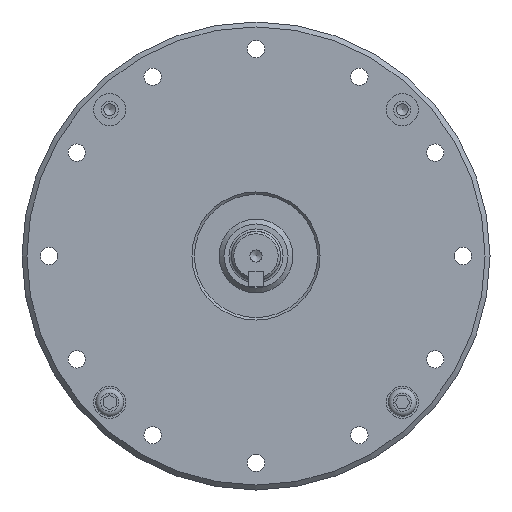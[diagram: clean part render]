
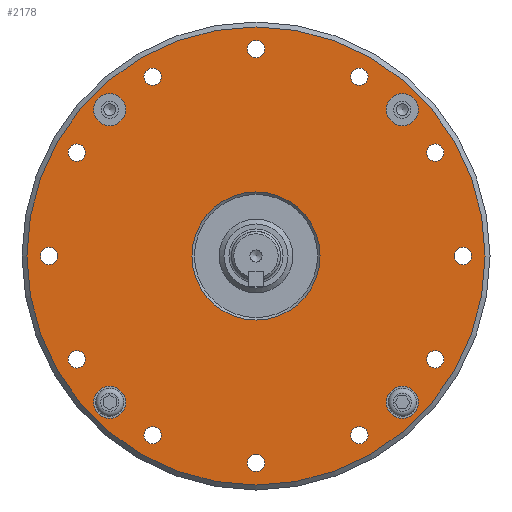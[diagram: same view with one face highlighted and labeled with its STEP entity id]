
A CAD part, front view. The second image highlights one B-rep face of the part: STEP entity #2178.
In plain terms, the highlighted planar face has unit normal (0, -1, 0).
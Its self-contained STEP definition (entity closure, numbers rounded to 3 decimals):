
#1407=PLANE('',#10837);
#1689=FACE_OUTER_BOUND('',#4518,.T.);
#2178=ADVANCED_FACE('',(#3362,#3363,#3364,#3365,#3366,#3367,#3368,#3369,
#3370,#3371,#3372,#3373,#3374,#3375,#3376,#3377,#3378,#1689),#1407,.T.);
#3362=FACE_BOUND('',#4501,.T.);
#3363=FACE_BOUND('',#4502,.T.);
#3364=FACE_BOUND('',#4503,.T.);
#3365=FACE_BOUND('',#4504,.T.);
#3366=FACE_BOUND('',#4505,.T.);
#3367=FACE_BOUND('',#4506,.T.);
#3368=FACE_BOUND('',#4507,.T.);
#3369=FACE_BOUND('',#4508,.T.);
#3370=FACE_BOUND('',#4509,.T.);
#3371=FACE_BOUND('',#4510,.T.);
#3372=FACE_BOUND('',#4511,.T.);
#3373=FACE_BOUND('',#4512,.T.);
#3374=FACE_BOUND('',#4513,.T.);
#3375=FACE_BOUND('',#4514,.T.);
#3376=FACE_BOUND('',#4515,.T.);
#3377=FACE_BOUND('',#4516,.T.);
#3378=FACE_BOUND('',#4517,.T.);
#4501=EDGE_LOOP('',(#5945));
#4502=EDGE_LOOP('',(#5946));
#4503=EDGE_LOOP('',(#5947));
#4504=EDGE_LOOP('',(#5948));
#4505=EDGE_LOOP('',(#5949));
#4506=EDGE_LOOP('',(#5950));
#4507=EDGE_LOOP('',(#5951));
#4508=EDGE_LOOP('',(#5952));
#4509=EDGE_LOOP('',(#5953));
#4510=EDGE_LOOP('',(#5954));
#4511=EDGE_LOOP('',(#5955));
#4512=EDGE_LOOP('',(#5956));
#4513=EDGE_LOOP('',(#5957));
#4514=EDGE_LOOP('',(#5958));
#4515=EDGE_LOOP('',(#5959));
#4516=EDGE_LOOP('',(#5960));
#4517=EDGE_LOOP('',(#5961));
#4518=EDGE_LOOP('',(#5962));
#5945=ORIENTED_EDGE('',*,*,#8802,.T.);
#5946=ORIENTED_EDGE('',*,*,#8763,.T.);
#5947=ORIENTED_EDGE('',*,*,#8767,.T.);
#5948=ORIENTED_EDGE('',*,*,#8771,.T.);
#5949=ORIENTED_EDGE('',*,*,#8803,.T.);
#5950=ORIENTED_EDGE('',*,*,#8772,.T.);
#5951=ORIENTED_EDGE('',*,*,#8774,.T.);
#5952=ORIENTED_EDGE('',*,*,#8776,.T.);
#5953=ORIENTED_EDGE('',*,*,#8778,.T.);
#5954=ORIENTED_EDGE('',*,*,#8780,.T.);
#5955=ORIENTED_EDGE('',*,*,#8782,.T.);
#5956=ORIENTED_EDGE('',*,*,#8784,.T.);
#5957=ORIENTED_EDGE('',*,*,#8786,.T.);
#5958=ORIENTED_EDGE('',*,*,#8788,.T.);
#5959=ORIENTED_EDGE('',*,*,#8790,.T.);
#5960=ORIENTED_EDGE('',*,*,#8792,.T.);
#5961=ORIENTED_EDGE('',*,*,#8804,.T.);
#5962=ORIENTED_EDGE('',*,*,#8805,.T.);
#7797=VERTEX_POINT('',#16364);
#7801=VERTEX_POINT('',#16375);
#7805=VERTEX_POINT('',#16386);
#7806=VERTEX_POINT('',#16389);
#7808=VERTEX_POINT('',#16394);
#7810=VERTEX_POINT('',#16399);
#7812=VERTEX_POINT('',#16404);
#7814=VERTEX_POINT('',#16409);
#7816=VERTEX_POINT('',#16414);
#7818=VERTEX_POINT('',#16419);
#7820=VERTEX_POINT('',#16424);
#7822=VERTEX_POINT('',#16429);
#7824=VERTEX_POINT('',#16434);
#7826=VERTEX_POINT('',#16439);
#7836=VERTEX_POINT('',#16463);
#7837=VERTEX_POINT('',#16465);
#7838=VERTEX_POINT('',#16467);
#7839=VERTEX_POINT('',#16469);
#8763=EDGE_CURVE('',#7797,#7797,#9787,.T.);
#8767=EDGE_CURVE('',#7801,#7801,#9791,.T.);
#8771=EDGE_CURVE('',#7805,#7805,#9795,.T.);
#8772=EDGE_CURVE('',#7806,#7806,#9796,.T.);
#8774=EDGE_CURVE('',#7808,#7808,#9798,.T.);
#8776=EDGE_CURVE('',#7810,#7810,#9800,.T.);
#8778=EDGE_CURVE('',#7812,#7812,#9802,.T.);
#8780=EDGE_CURVE('',#7814,#7814,#9804,.T.);
#8782=EDGE_CURVE('',#7816,#7816,#9806,.T.);
#8784=EDGE_CURVE('',#7818,#7818,#9808,.T.);
#8786=EDGE_CURVE('',#7820,#7820,#9810,.T.);
#8788=EDGE_CURVE('',#7822,#7822,#9812,.T.);
#8790=EDGE_CURVE('',#7824,#7824,#9814,.T.);
#8792=EDGE_CURVE('',#7826,#7826,#9816,.T.);
#8802=EDGE_CURVE('',#7836,#7836,#9826,.T.);
#8803=EDGE_CURVE('',#7837,#7837,#9827,.T.);
#8804=EDGE_CURVE('',#7838,#7838,#9828,.T.);
#8805=EDGE_CURVE('',#7839,#7839,#9829,.T.);
#9787=CIRCLE('',#10773,3.25);
#9791=CIRCLE('',#10780,3.25);
#9795=CIRCLE('',#10787,3.25);
#9796=CIRCLE('',#10789,1.75);
#9798=CIRCLE('',#10792,1.75);
#9800=CIRCLE('',#10795,1.75);
#9802=CIRCLE('',#10798,1.75);
#9804=CIRCLE('',#10801,1.75);
#9806=CIRCLE('',#10804,1.75);
#9808=CIRCLE('',#10807,1.75);
#9810=CIRCLE('',#10810,1.75);
#9812=CIRCLE('',#10813,1.75);
#9814=CIRCLE('',#10816,1.75);
#9816=CIRCLE('',#10819,1.75);
#9826=CIRCLE('',#10833,13.);
#9827=CIRCLE('',#10834,3.25);
#9828=CIRCLE('',#10835,1.75);
#9829=CIRCLE('',#10836,46.5);
#10773=AXIS2_PLACEMENT_3D('',#16363,#12674,#12675);
#10780=AXIS2_PLACEMENT_3D('',#16374,#12688,#12689);
#10787=AXIS2_PLACEMENT_3D('',#16385,#12702,#12703);
#10789=AXIS2_PLACEMENT_3D('',#16388,#12706,#12707);
#10792=AXIS2_PLACEMENT_3D('',#16393,#12712,#12713);
#10795=AXIS2_PLACEMENT_3D('',#16398,#12718,#12719);
#10798=AXIS2_PLACEMENT_3D('',#16403,#12724,#12725);
#10801=AXIS2_PLACEMENT_3D('',#16408,#12730,#12731);
#10804=AXIS2_PLACEMENT_3D('',#16413,#12736,#12737);
#10807=AXIS2_PLACEMENT_3D('',#16418,#12742,#12743);
#10810=AXIS2_PLACEMENT_3D('',#16423,#12748,#12749);
#10813=AXIS2_PLACEMENT_3D('',#16428,#12754,#12755);
#10816=AXIS2_PLACEMENT_3D('',#16433,#12760,#12761);
#10819=AXIS2_PLACEMENT_3D('',#16438,#12766,#12767);
#10833=AXIS2_PLACEMENT_3D('',#16462,#12794,#12795);
#10834=AXIS2_PLACEMENT_3D('',#16464,#12796,#12797);
#10835=AXIS2_PLACEMENT_3D('',#16466,#12798,#12799);
#10836=AXIS2_PLACEMENT_3D('',#16468,#12800,#12801);
#10837=AXIS2_PLACEMENT_3D('',#16470,#12802,#12803);
#12674=DIRECTION('',(0.,1.,0.));
#12675=DIRECTION('',(-1.,0.,0.));
#12688=DIRECTION('',(0.,1.,0.));
#12689=DIRECTION('',(0.,0.,-1.));
#12702=DIRECTION('',(0.,1.,0.));
#12703=DIRECTION('',(1.,0.,0.));
#12706=DIRECTION('',(0.,1.,0.));
#12707=DIRECTION('',(-0.5,0.,0.866));
#12712=DIRECTION('',(0.,1.,0.));
#12713=DIRECTION('',(-0.866,0.,0.5));
#12718=DIRECTION('',(0.,1.,0.));
#12719=DIRECTION('',(-1.,0.,0.));
#12724=DIRECTION('',(0.,1.,0.));
#12725=DIRECTION('',(-0.866,0.,-0.5));
#12730=DIRECTION('',(0.,1.,0.));
#12731=DIRECTION('',(-0.5,0.,-0.866));
#12736=DIRECTION('',(0.,1.,0.));
#12737=DIRECTION('',(0.,0.,-1.));
#12742=DIRECTION('',(0.,1.,0.));
#12743=DIRECTION('',(0.5,0.,-0.866));
#12748=DIRECTION('',(0.,1.,0.));
#12749=DIRECTION('',(0.866,0.,-0.5));
#12754=DIRECTION('',(0.,1.,0.));
#12755=DIRECTION('',(1.,0.,0.));
#12760=DIRECTION('',(0.,1.,0.));
#12761=DIRECTION('',(0.866,0.,0.5));
#12766=DIRECTION('',(0.,1.,0.));
#12767=DIRECTION('',(0.5,0.,0.866));
#12794=DIRECTION('',(0.,1.,0.));
#12795=DIRECTION('',(0.,0.,-1.));
#12796=DIRECTION('',(0.,1.,0.));
#12797=DIRECTION('',(0.,0.,1.));
#12798=DIRECTION('',(0.,1.,0.));
#12799=DIRECTION('',(0.,0.,1.));
#12800=DIRECTION('',(0.,-1.,0.));
#12801=DIRECTION('',(0.,0.,-1.));
#12802=DIRECTION('',(0.,-1.,0.));
#12803=DIRECTION('',(0.,0.,-1.));
#16363=CARTESIAN_POINT('',(29.698,-33.5,-29.698));
#16364=CARTESIAN_POINT('',(26.448,-33.5,-29.698));
#16374=CARTESIAN_POINT('',(29.698,-33.5,29.698));
#16375=CARTESIAN_POINT('',(29.698,-33.5,26.448));
#16385=CARTESIAN_POINT('',(-29.698,-33.5,29.698));
#16386=CARTESIAN_POINT('',(-26.448,-33.5,29.698));
#16388=CARTESIAN_POINT('',(21.,-33.5,-36.373));
#16389=CARTESIAN_POINT('',(20.125,-33.5,-34.858));
#16393=CARTESIAN_POINT('',(36.373,-33.5,-21.));
#16394=CARTESIAN_POINT('',(34.858,-33.5,-20.125));
#16398=CARTESIAN_POINT('',(42.,-33.5,0.));
#16399=CARTESIAN_POINT('',(40.25,-33.5,0.));
#16403=CARTESIAN_POINT('',(36.373,-33.5,21.));
#16404=CARTESIAN_POINT('',(34.858,-33.5,20.125));
#16408=CARTESIAN_POINT('',(21.,-33.5,36.373));
#16409=CARTESIAN_POINT('',(20.125,-33.5,34.858));
#16413=CARTESIAN_POINT('',(0.,-33.5,42.));
#16414=CARTESIAN_POINT('',(0.,-33.5,40.25));
#16418=CARTESIAN_POINT('',(-21.,-33.5,36.373));
#16419=CARTESIAN_POINT('',(-20.125,-33.5,34.858));
#16423=CARTESIAN_POINT('',(-36.373,-33.5,21.));
#16424=CARTESIAN_POINT('',(-34.858,-33.5,20.125));
#16428=CARTESIAN_POINT('',(-42.,-33.5,0.));
#16429=CARTESIAN_POINT('',(-40.25,-33.5,0.));
#16433=CARTESIAN_POINT('',(-36.373,-33.5,-21.));
#16434=CARTESIAN_POINT('',(-34.858,-33.5,-20.125));
#16438=CARTESIAN_POINT('',(-21.,-33.5,-36.373));
#16439=CARTESIAN_POINT('',(-20.125,-33.5,-34.858));
#16462=CARTESIAN_POINT('',(0.,-33.5,0.));
#16463=CARTESIAN_POINT('',(0.,-33.5,-13.));
#16464=CARTESIAN_POINT('',(-29.698,-33.5,-29.698));
#16465=CARTESIAN_POINT('',(-29.698,-33.5,-26.448));
#16466=CARTESIAN_POINT('',(0.,-33.5,-42.));
#16467=CARTESIAN_POINT('',(0.,-33.5,-40.25));
#16468=CARTESIAN_POINT('',(0.,-33.5,0.));
#16469=CARTESIAN_POINT('',(0.,-33.5,-46.5));
#16470=CARTESIAN_POINT('',(0.,-33.5,0.));
